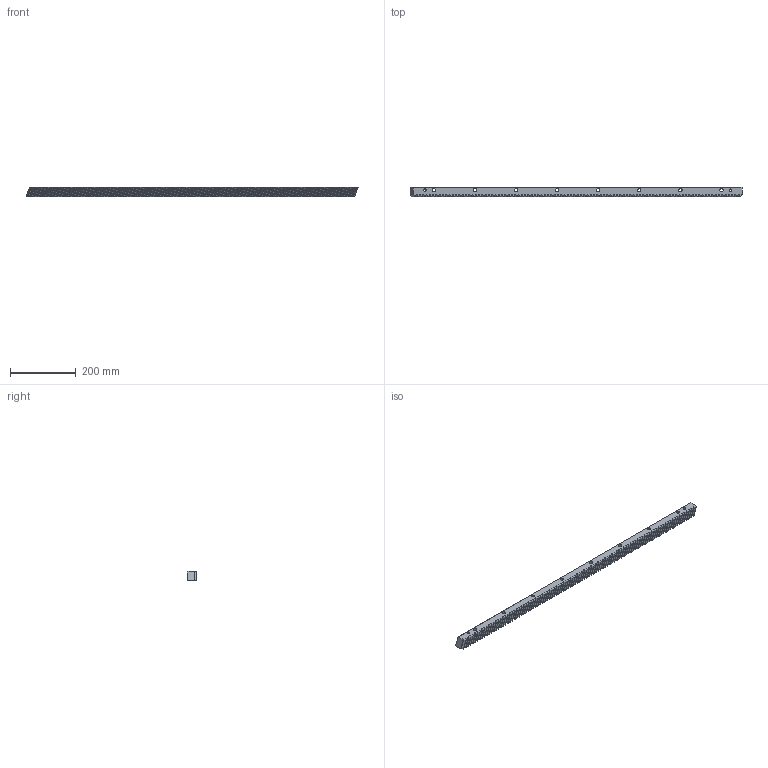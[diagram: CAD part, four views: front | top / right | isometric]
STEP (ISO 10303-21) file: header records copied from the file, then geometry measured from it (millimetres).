
FILE_DESCRIPTION(/* description */ (''),/* implementation_level */ '2;1');
FILE_NAME(/* name */ 'BL-1HR26R030100H.ipt',/* time_stamp */ '2019-06-18T08:36:54+02:00',/* author */ ('VĂ©gh MĂˇtĂ©'),/* organization */ ('Bearing Kft'),/* preprocessor_version */ 'ST-DEVELOPER v16.7',/* originating_system */ 'DEX',/* authorisation */ $);
FILE_SCHEMA (('TECHNICAL_DATA_PACKAGING','AUTOMOTIVE_DESIGN {1 0 10303 214 3 1 1}'));
Length unit declared in the file: millimetre
Products named in the file (1): BL-1HR26R030100H.ipt
Bounding box: 1010.29 x 29 x 29 mm (x, y, z)
Volume: 718297.4 mm3; surface area: 147235.3 mm2
Topology: 1 solids, 1 shells, 972 faces, 2715 edges, 1810 vertices
Faces by surface type: plane 671, bspline 281, cylinder 20
Full cylindrical faces by diameter (mm): 7.7 x2, 10 x8, 15 x8
Entity records: 43561 total; most frequent: CARTESIAN_POINT 12491, ORIENTED_EDGE 5374, DIRECTION 4349, EDGE_CURVE 2687, LINE 2085, VECTOR 2085, VERTEX_POINT 1810, AXIS2_PLACEMENT_3D 1132
